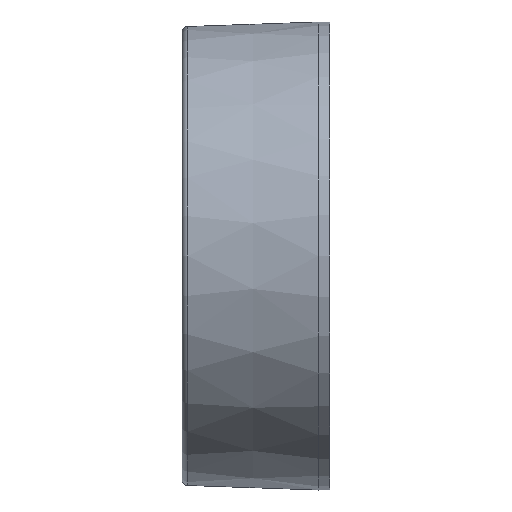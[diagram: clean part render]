
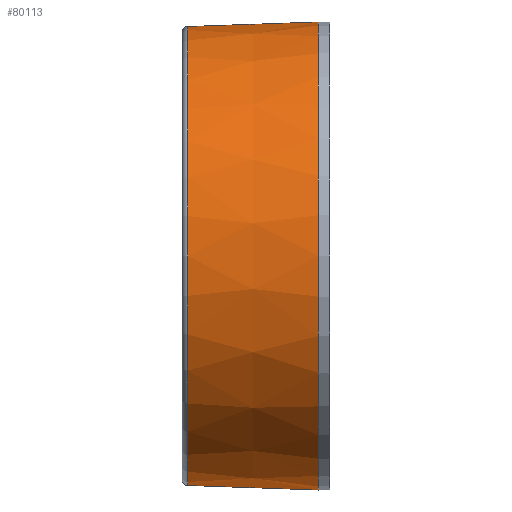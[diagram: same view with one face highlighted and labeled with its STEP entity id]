
A CAD part, left-side view. The second image highlights one B-rep face of the part: STEP entity #80113.
In plain terms, the highlighted conical face has half-angle 2 degrees and reference radius 32.5 mm.
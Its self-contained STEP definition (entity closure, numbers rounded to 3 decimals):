
#696 = EDGE_CURVE ( 'NONE', #33404, #121767, #58184, .T. ) ;
#7207 = CARTESIAN_POINT ( 'NONE',  ( 0., 0., 32.5 ) ) ;
#7520 = DIRECTION ( 'NONE',  ( 0., -1., 0. ) ) ;
#14049 = ORIENTED_EDGE ( 'NONE', *, *, #74901, .F. ) ;
#15605 = FACE_OUTER_BOUND ( 'NONE', #66665, .T. ) ;
#17997 = AXIS2_PLACEMENT_3D ( 'NONE', #125179, #126514, #22702 ) ;
#20247 = AXIS2_PLACEMENT_3D ( 'NONE', #70112, #7520, #80634 ) ;
#22702 = DIRECTION ( 'NONE',  ( 0., 0., -1. ) ) ;
#25205 = CONICAL_SURFACE ( 'NONE', #17997, 32.5, 0.035 ) ;
#26798 = DIRECTION ( 'NONE',  ( 0., -0.999, 0.035 ) ) ;
#27145 = CIRCLE ( 'NONE', #90193, 31.866 ) ;
#31201 = VERTEX_POINT ( 'NONE', #70399 ) ;
#33404 = VERTEX_POINT ( 'NONE', #64704 ) ;
#37422 = DIRECTION ( 'NONE',  ( 0., -1., 0. ) ) ;
#41748 = LINE ( 'NONE', #46907, #99086 ) ;
#45761 = VECTOR ( 'NONE', #26798, 1000. ) ;
#46907 = CARTESIAN_POINT ( 'NONE',  ( 0., 0., -32.5 ) ) ;
#57703 = ORIENTED_EDGE ( 'NONE', *, *, #101177, .T. ) ;
#58184 = CIRCLE ( 'NONE', #20247, 32.5 ) ;
#64704 = CARTESIAN_POINT ( 'NONE',  ( 0., 0., 32.5 ) ) ;
#66665 = EDGE_LOOP ( 'NONE', ( #14049, #86121, #57703, #93075 ) ) ;
#70112 = CARTESIAN_POINT ( 'NONE',  ( 0., 0., 0. ) ) ;
#70399 = CARTESIAN_POINT ( 'NONE',  ( 0., 18.168, -31.866 ) ) ;
#72108 = CARTESIAN_POINT ( 'NONE',  ( 0., 0., -32.5 ) ) ;
#74901 = EDGE_CURVE ( 'NONE', #128914, #33404, #108069, .T. ) ;
#79150 = CARTESIAN_POINT ( 'NONE',  ( 0., 18.168, 0. ) ) ;
#80113 = ADVANCED_FACE ( 'NONE', ( #15605 ), #25205, .T. ) ;
#80634 = DIRECTION ( 'NONE',  ( 0., 0., -1. ) ) ;
#86121 = ORIENTED_EDGE ( 'NONE', *, *, #133639, .T. ) ;
#87865 = DIRECTION ( 'NONE',  ( 0., 0., 1. ) ) ;
#90193 = AXIS2_PLACEMENT_3D ( 'NONE', #79150, #37422, #87865 ) ;
#93075 = ORIENTED_EDGE ( 'NONE', *, *, #696, .F. ) ;
#99086 = VECTOR ( 'NONE', #120591, 1000. ) ;
#101177 = EDGE_CURVE ( 'NONE', #31201, #121767, #41748, .T. ) ;
#108069 = LINE ( 'NONE', #7207, #45761 ) ;
#120591 = DIRECTION ( 'NONE',  ( 0., -0.999, -0.035 ) ) ;
#121767 = VERTEX_POINT ( 'NONE', #72108 ) ;
#125179 = CARTESIAN_POINT ( 'NONE',  ( 0., 0., 0. ) ) ;
#126186 = CARTESIAN_POINT ( 'NONE',  ( 0., 18.168, 31.866 ) ) ;
#126514 = DIRECTION ( 'NONE',  ( 0., -1., 0. ) ) ;
#128914 = VERTEX_POINT ( 'NONE', #126186 ) ;
#133639 = EDGE_CURVE ( 'NONE', #128914, #31201, #27145, .T. ) ;
